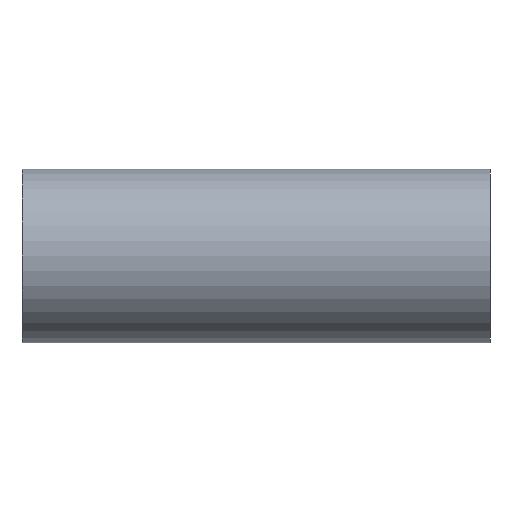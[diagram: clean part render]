
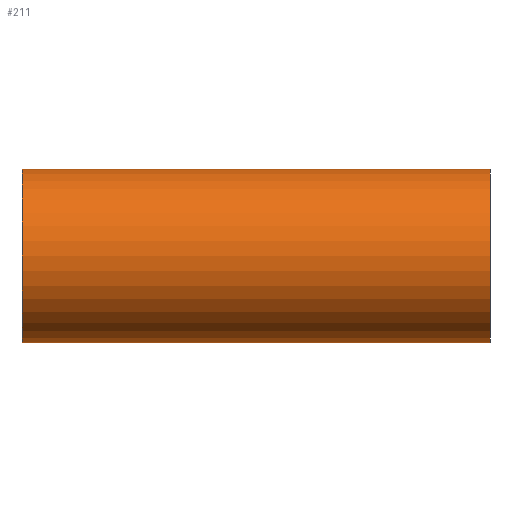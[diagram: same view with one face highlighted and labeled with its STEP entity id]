
A CAD part, front view. The second image highlights one B-rep face of the part: STEP entity #211.
In plain terms, the highlighted cylindrical face has radius 24.15 mm (diameter 48.3 mm), a full revolution.
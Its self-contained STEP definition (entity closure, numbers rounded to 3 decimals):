
#16=FACE_BOUND('',#75,.T.);
#17=FACE_BOUND('',#76,.T.);
#35=CIRCLE('',#240,24.15);
#36=CIRCLE('',#241,24.15);
#45=CYLINDRICAL_SURFACE('',#239,24.15);
#57=FACE_OUTER_BOUND('',#74,.T.);
#74=EDGE_LOOP('',(#159));
#75=EDGE_LOOP('',(#160,#161));
#76=EDGE_LOOP('',(#162));
#99=ELLIPSE('',#228,35.964,24.15);
#102=ELLIPSE('',#231,35.964,24.15);
#107=VERTEX_POINT('',#1212);
#108=VERTEX_POINT('',#1214);
#111=VERTEX_POINT('',#1529);
#112=VERTEX_POINT('',#1531);
#124=EDGE_CURVE('',#107,#108,#99,.T.);
#127=EDGE_CURVE('',#108,#107,#102,.T.);
#132=EDGE_CURVE('',#111,#111,#35,.T.);
#133=EDGE_CURVE('',#112,#112,#36,.T.);
#159=ORIENTED_EDGE('',*,*,#132,.T.);
#160=ORIENTED_EDGE('',*,*,#124,.F.);
#161=ORIENTED_EDGE('',*,*,#127,.F.);
#162=ORIENTED_EDGE('',*,*,#133,.F.);
#211=ADVANCED_FACE('',(#57,#16,#17),#45,.T.);
#228=AXIS2_PLACEMENT_3D('',#1215,#268,#269);
#231=AXIS2_PLACEMENT_3D('',#1519,#274,#275);
#239=AXIS2_PLACEMENT_3D('',#1528,#290,#291);
#240=AXIS2_PLACEMENT_3D('',#1530,#292,#293);
#241=AXIS2_PLACEMENT_3D('',#1532,#294,#295);
#268=DIRECTION('center_axis',(-0.671,0.741,0.));
#269=DIRECTION('ref_axis',(0.741,0.671,0.));
#274=DIRECTION('center_axis',(0.671,0.741,0.));
#275=DIRECTION('ref_axis',(-0.741,0.671,0.));
#290=DIRECTION('center_axis',(1.,0.,0.));
#291=DIRECTION('ref_axis',(0.,-1.,0.));
#292=DIRECTION('center_axis',(-1.,0.,0.));
#293=DIRECTION('ref_axis',(0.,-1.,0.));
#294=DIRECTION('center_axis',(-1.,0.,0.));
#295=DIRECTION('ref_axis',(0.,-1.,0.));
#1212=CARTESIAN_POINT('',(65.,0.,24.15));
#1214=CARTESIAN_POINT('',(65.,0.,-24.15));
#1215=CARTESIAN_POINT('Origin',(65.,0.,0.));
#1519=CARTESIAN_POINT('Origin',(65.,0.,0.));
#1528=CARTESIAN_POINT('Origin',(0.,0.,0.));
#1529=CARTESIAN_POINT('',(130.,24.15,0.));
#1530=CARTESIAN_POINT('Origin',(130.,0.,0.));
#1531=CARTESIAN_POINT('',(0.,24.15,0.));
#1532=CARTESIAN_POINT('Origin',(0.,0.,0.));
